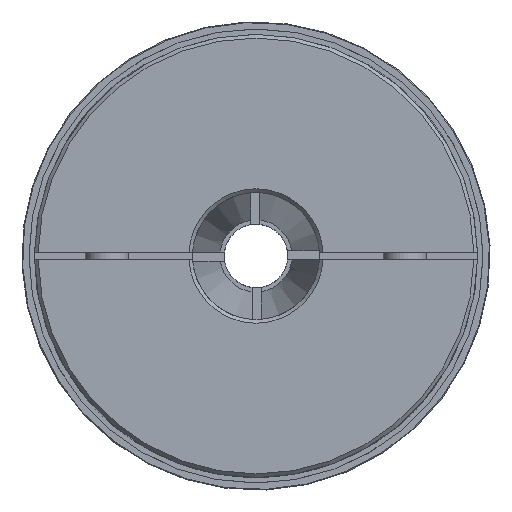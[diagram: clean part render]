
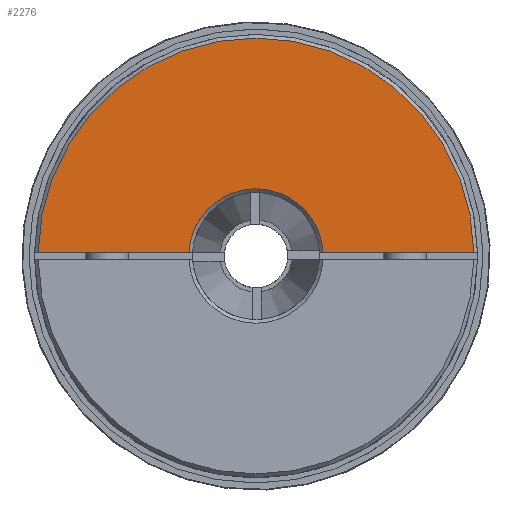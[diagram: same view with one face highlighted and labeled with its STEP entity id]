
A CAD part, left-side view. The second image highlights one B-rep face of the part: STEP entity #2276.
In plain terms, the highlighted planar face has unit normal (-1, 0, 0) as drawn and (0, -1, 0) by its records, which use the part's own axes.
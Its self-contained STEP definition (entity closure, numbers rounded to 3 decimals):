
#2276 = ADVANCED_FACE( '', ( #3194 ), #3195, .F. );
#3194 = FACE_OUTER_BOUND( '', #4644, .T. );
#3195 = PLANE( '', #4645 );
#4644 = EDGE_LOOP( '', ( #5608, #5609, #5610, #5611 ) );
#4645 = AXIS2_PLACEMENT_3D( '', #5612, #5613, #5614 );
#5608 = ORIENTED_EDGE( '', *, *, #6476, .T. );
#5609 = ORIENTED_EDGE( '', *, *, #6482, .T. );
#5610 = ORIENTED_EDGE( '', *, *, #6496, .T. );
#5611 = ORIENTED_EDGE( '', *, *, #6497, .T. );
#5612 = CARTESIAN_POINT( '', ( 0., -52., 0. ) );
#5613 = DIRECTION( '', ( 0., 1., 0. ) );
#5614 = DIRECTION( '', ( 0., 0., 1. ) );
#6476 = EDGE_CURVE( '', #8312, #8310, #8313, .T. );
#6482 = EDGE_CURVE( '', #8310, #8321, #8323, .T. );
#6496 = EDGE_CURVE( '', #8321, #8348, #8349, .T. );
#6497 = EDGE_CURVE( '', #8348, #8312, #8350, .F. );
#8310 = VERTEX_POINT( '', #9329 );
#8312 = VERTEX_POINT( '', #9334 );
#8313 = LINE( '', #9335, #9336 );
#8321 = VERTEX_POINT( '', #9349 );
#8323 = CIRCLE( '', #9354, 18.5 );
#8348 = VERTEX_POINT( '', #9476 );
#8349 = LINE( '', #9477, #9478 );
#8350 = CIRCLE( '', #9479, 60. );
#9329 = CARTESIAN_POINT( '', ( -18.473, -52., 1. ) );
#9334 = CARTESIAN_POINT( '', ( -59.992, -52., 1. ) );
#9335 = CARTESIAN_POINT( '', ( 0., -52., 1. ) );
#9336 = VECTOR( '', #9779, 1000. );
#9349 = CARTESIAN_POINT( '', ( 18.473, -52., 1. ) );
#9354 = AXIS2_PLACEMENT_3D( '', #9785, #9786, #9787 );
#9476 = CARTESIAN_POINT( '', ( 59.992, -52., 1. ) );
#9477 = CARTESIAN_POINT( '', ( 0., -52., 1. ) );
#9478 = VECTOR( '', #9820, 1000. );
#9479 = AXIS2_PLACEMENT_3D( '', #9821, #9822, #9823 );
#9779 = DIRECTION( '', ( 1., 0., 0. ) );
#9785 = CARTESIAN_POINT( '', ( 0., -52., 0. ) );
#9786 = DIRECTION( '', ( 0., 1., 0. ) );
#9787 = DIRECTION( '', ( 0., 0., 1. ) );
#9820 = DIRECTION( '', ( 1., 0., 0. ) );
#9821 = CARTESIAN_POINT( '', ( 0., -52., 0. ) );
#9822 = DIRECTION( '', ( 0., 1., 0. ) );
#9823 = DIRECTION( '', ( 0., 0., 1. ) );
